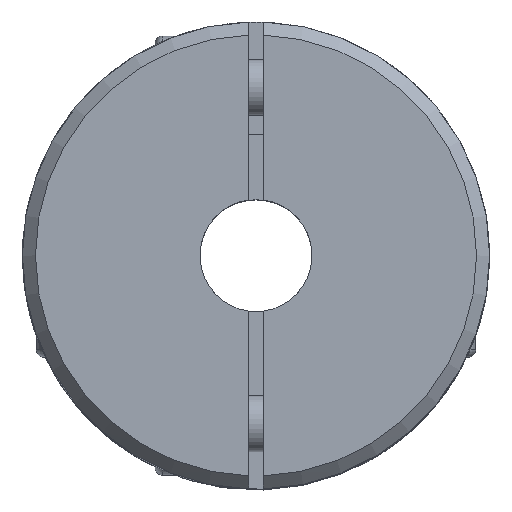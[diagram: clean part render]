
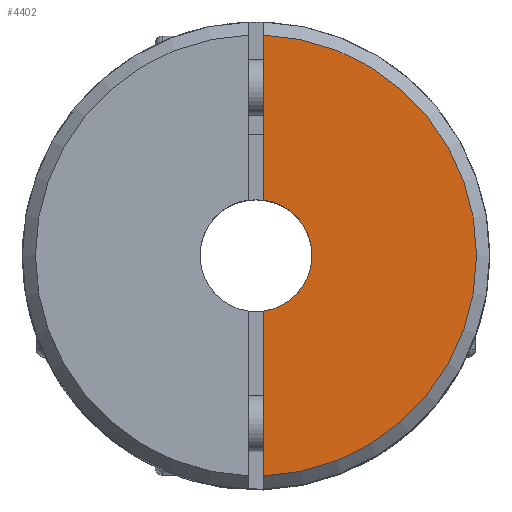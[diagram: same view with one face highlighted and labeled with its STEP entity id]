
A CAD part, top view. The second image highlights one B-rep face of the part: STEP entity #4402.
In plain terms, the highlighted planar face has unit normal (0, 0, 1).
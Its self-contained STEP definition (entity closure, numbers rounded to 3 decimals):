
#19 = VERTEX_POINT ( 'NONE', #390 ) ;
#55 = DIRECTION ( 'NONE',  ( 0., 0., 1. ) ) ;
#97 = AXIS2_PLACEMENT_3D ( 'NONE', #189, #1275, #3410 ) ;
#189 = CARTESIAN_POINT ( 'NONE',  ( 0., 3., 15.5 ) ) ;
#275 = ORIENTED_EDGE ( 'NONE', *, *, #396, .T. ) ;
#390 = CARTESIAN_POINT ( 'NONE',  ( 0.4, 11.793, 15.5 ) ) ;
#394 = CARTESIAN_POINT ( 'NONE',  ( 0., 0., 15.5 ) ) ;
#396 = EDGE_CURVE ( 'NONE', #899, #19, #1088, .T. ) ;
#400 = CARTESIAN_POINT ( 'NONE',  ( 0., 0., 15.5 ) ) ;
#740 = DIRECTION ( 'NONE',  ( 0., -1., 0. ) ) ;
#802 = VERTEX_POINT ( 'NONE', #2534 ) ;
#899 = VERTEX_POINT ( 'NONE', #3998 ) ;
#969 = LINE ( 'NONE', #4527, #3163 ) ;
#1088 = CIRCLE ( 'NONE', #3201, 11.8 ) ;
#1275 = DIRECTION ( 'NONE',  ( 0., 0., -1. ) ) ;
#1331 = CIRCLE ( 'NONE', #2056, 3. ) ;
#1432 = DIRECTION ( 'NONE',  ( 0., 1., 0. ) ) ;
#1593 = ORIENTED_EDGE ( 'NONE', *, *, #3899, .T. ) ;
#1650 = ORIENTED_EDGE ( 'NONE', *, *, #3291, .F. ) ;
#1667 = LINE ( 'NONE', #1731, #1800 ) ;
#1691 = CARTESIAN_POINT ( 'NONE',  ( 0.4, -2.973, 15.5 ) ) ;
#1698 = EDGE_CURVE ( 'NONE', #19, #802, #1667, .T. ) ;
#1731 = CARTESIAN_POINT ( 'NONE',  ( 0.4, 15., 15.5 ) ) ;
#1753 = VERTEX_POINT ( 'NONE', #1691 ) ;
#1800 = VECTOR ( 'NONE', #3076, 1000. ) ;
#1995 = PLANE ( 'NONE',  #97 ) ;
#2056 = AXIS2_PLACEMENT_3D ( 'NONE', #394, #2183, #740 ) ;
#2183 = DIRECTION ( 'NONE',  ( 0., 0., 1. ) ) ;
#2534 = CARTESIAN_POINT ( 'NONE',  ( 0.4, 2.973, 15.5 ) ) ;
#3076 = DIRECTION ( 'NONE',  ( 0., -1., 0. ) ) ;
#3163 = VECTOR ( 'NONE', #4482, 1000. ) ;
#3201 = AXIS2_PLACEMENT_3D ( 'NONE', #400, #55, #1432 ) ;
#3291 = EDGE_CURVE ( 'NONE', #1753, #802, #1331, .T. ) ;
#3329 = FACE_OUTER_BOUND ( 'NONE', #3746, .T. ) ;
#3410 = DIRECTION ( 'NONE',  ( 0., 1., 0. ) ) ;
#3746 = EDGE_LOOP ( 'NONE', ( #1593, #275, #4469, #1650 ) ) ;
#3899 = EDGE_CURVE ( 'NONE', #1753, #899, #969, .T. ) ;
#3998 = CARTESIAN_POINT ( 'NONE',  ( 0.4, -11.793, 15.5 ) ) ;
#4402 = ADVANCED_FACE ( 'NONE', ( #3329 ), #1995, .F. ) ;
#4469 = ORIENTED_EDGE ( 'NONE', *, *, #1698, .T. ) ;
#4482 = DIRECTION ( 'NONE',  ( 0., -1., 0. ) ) ;
#4527 = CARTESIAN_POINT ( 'NONE',  ( 0.4, 15., 15.5 ) ) ;
